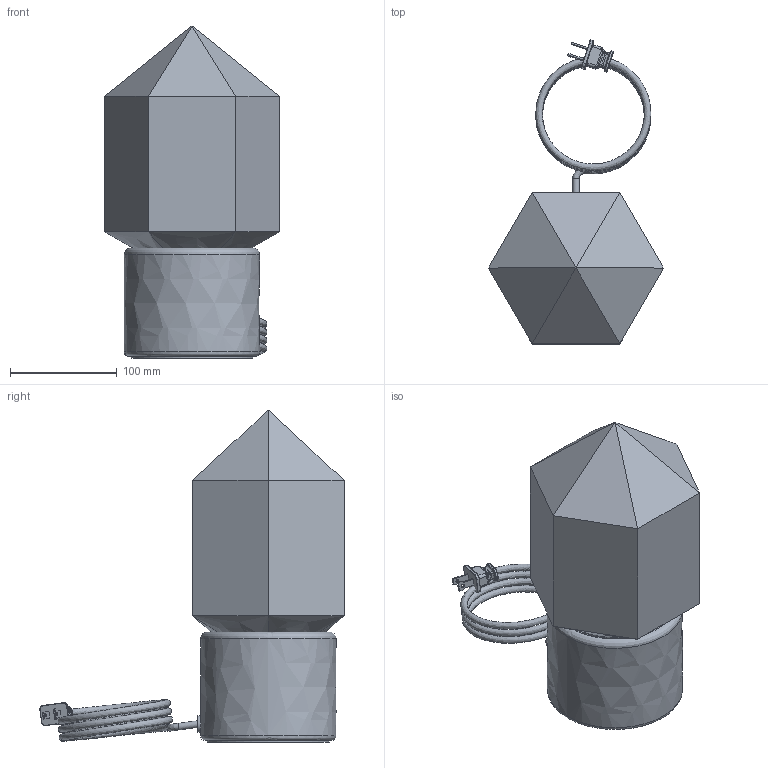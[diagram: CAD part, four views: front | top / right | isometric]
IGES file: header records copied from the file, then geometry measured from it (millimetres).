
Global section: file name: Facet Petite - Ionic Table Lamp - Opalia Collection; native system: unknown; preprocessor: unknown; author: unknown; organization: unknown; date: 20240726.153646; units: inch
Bounding box: 164.24 x 285.46 x 311.47 mm (x, y, z)
Volume: 1267641 mm3; surface area: 489401.5 mm2
Topology: 14 solids, 14 shells, 2002 faces, 5329 edges, 3504 vertices
Faces by surface type: bspline 2001, revolution 1
